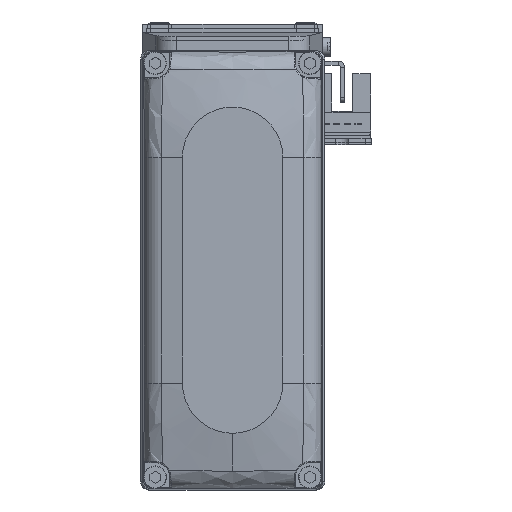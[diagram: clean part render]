
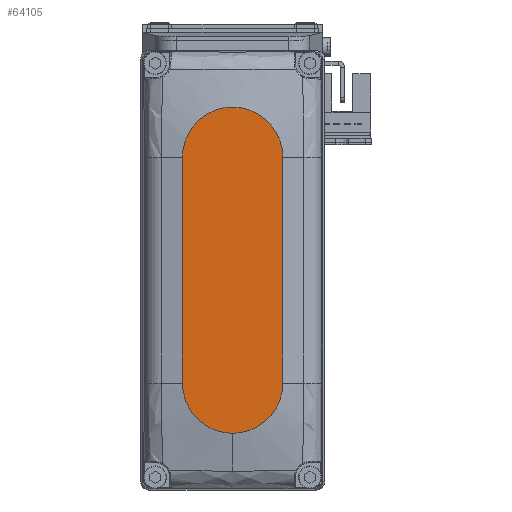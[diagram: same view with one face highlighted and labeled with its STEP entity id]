
A CAD part, top view. The second image highlights one B-rep face of the part: STEP entity #64105.
In plain terms, the highlighted planar face has unit normal (0, 0, 1).
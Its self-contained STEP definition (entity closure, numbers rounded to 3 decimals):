
#1813 = EDGE_CURVE ( 'NONE', #24780, #76660, #7824, .T. ) ;
#7525 = DIRECTION ( 'NONE',  ( 1., 0., 0. ) ) ;
#7824 = CIRCLE ( 'NONE', #51879, 12. ) ;
#8211 = DIRECTION ( 'NONE',  ( 1., 0., 0. ) ) ;
#9090 = CARTESIAN_POINT ( 'NONE',  ( 0., 0., 25. ) ) ;
#10248 = VECTOR ( 'NONE', #8211, 1000. ) ;
#11141 = CARTESIAN_POINT ( 'NONE',  ( 39., 0., 25. ) ) ;
#11568 = AXIS2_PLACEMENT_3D ( 'NONE', #20336, #44346, #68395 ) ;
#18410 = EDGE_CURVE ( 'NONE', #20763, #32897, #45535, .T. ) ;
#20017 = LINE ( 'NONE', #44019, #27774 ) ;
#20336 = CARTESIAN_POINT ( 'NONE',  ( -27., 0., 25. ) ) ;
#20763 = VERTEX_POINT ( 'NONE', #24243 ) ;
#24243 = CARTESIAN_POINT ( 'NONE',  ( -27., 12., 25. ) ) ;
#24780 = VERTEX_POINT ( 'NONE', #31167 ) ;
#25005 = ORIENTED_EDGE ( 'NONE', *, *, #1813, .T. ) ;
#25244 = EDGE_CURVE ( 'NONE', #54884, #20763, #20017, .T. ) ;
#27464 = ORIENTED_EDGE ( 'NONE', *, *, #25244, .T. ) ;
#27774 = VECTOR ( 'NONE', #68069, 1000. ) ;
#28273 = CARTESIAN_POINT ( 'NONE',  ( 27., 0., 25. ) ) ;
#29467 = AXIS2_PLACEMENT_3D ( 'NONE', #37488, #61493, #7525 ) ;
#31167 = CARTESIAN_POINT ( 'NONE',  ( 27., -12., 25. ) ) ;
#32765 = CARTESIAN_POINT ( 'NONE',  ( -27., -12., 25. ) ) ;
#32897 = VERTEX_POINT ( 'NONE', #32765 ) ;
#33142 = DIRECTION ( 'NONE',  ( 0., 0., 1. ) ) ;
#37488 = CARTESIAN_POINT ( 'NONE',  ( 27., 0., 25. ) ) ;
#38162 = LINE ( 'NONE', #62186, #10248 ) ;
#39023 = FACE_OUTER_BOUND ( 'NONE', #40955, .T. ) ;
#40955 = EDGE_LOOP ( 'NONE', ( #27464, #45053, #41810, #25005, #71990 ) ) ;
#41810 = ORIENTED_EDGE ( 'NONE', *, *, #63259, .T. ) ;
#44019 = CARTESIAN_POINT ( 'NONE',  ( -27., 12., 25. ) ) ;
#44346 = DIRECTION ( 'NONE',  ( 0., 0., 1. ) ) ;
#45053 = ORIENTED_EDGE ( 'NONE', *, *, #18410, .T. ) ;
#45535 = CIRCLE ( 'NONE', #11568, 12. ) ;
#51879 = AXIS2_PLACEMENT_3D ( 'NONE', #28273, #52300, #76321 ) ;
#52300 = DIRECTION ( 'NONE',  ( 0., 0., 1. ) ) ;
#53163 = AXIS2_PLACEMENT_3D ( 'NONE', #9090, #33142, #57173 ) ;
#54884 = VERTEX_POINT ( 'NONE', #55192 ) ;
#55192 = CARTESIAN_POINT ( 'NONE',  ( 27., 12., 25. ) ) ;
#57173 = DIRECTION ( 'NONE',  ( 1., 0., 0. ) ) ;
#61493 = DIRECTION ( 'NONE',  ( 0., 0., 1. ) ) ;
#62186 = CARTESIAN_POINT ( 'NONE',  ( -27., -12., 25. ) ) ;
#63054 = PLANE ( 'NONE',  #53163 ) ;
#63259 = EDGE_CURVE ( 'NONE', #32897, #24780, #38162, .T. ) ;
#63456 = CIRCLE ( 'NONE', #29467, 12. ) ;
#64105 = ADVANCED_FACE ( 'NONE', ( #39023 ), #63054, .T. ) ;
#66526 = EDGE_CURVE ( 'NONE', #76660, #54884, #63456, .T. ) ;
#68069 = DIRECTION ( 'NONE',  ( -1., 0., 0. ) ) ;
#68395 = DIRECTION ( 'NONE',  ( 1., 0., 0. ) ) ;
#71990 = ORIENTED_EDGE ( 'NONE', *, *, #66526, .T. ) ;
#76321 = DIRECTION ( 'NONE',  ( 1., 0., 0. ) ) ;
#76660 = VERTEX_POINT ( 'NONE', #11141 ) ;
